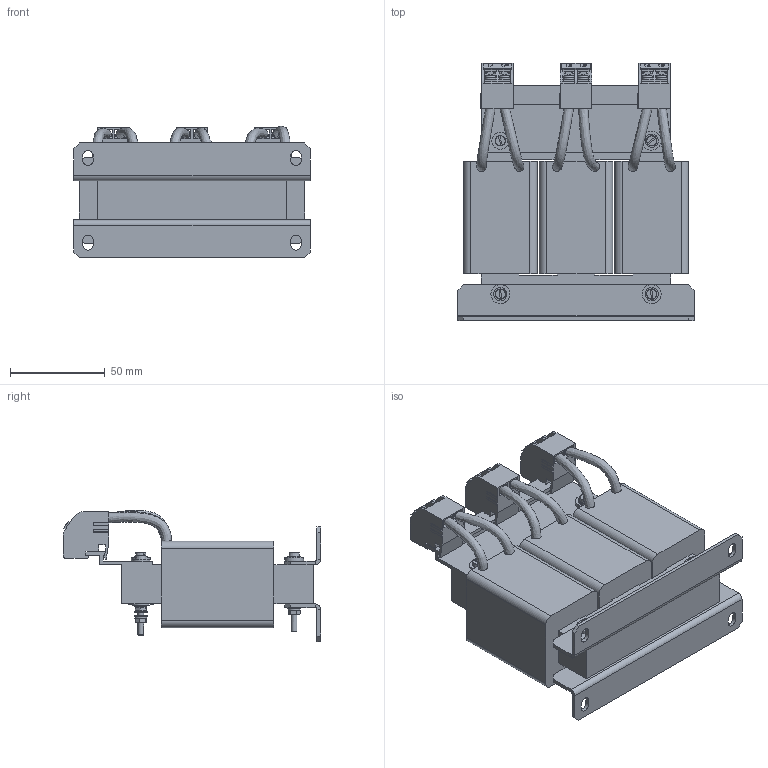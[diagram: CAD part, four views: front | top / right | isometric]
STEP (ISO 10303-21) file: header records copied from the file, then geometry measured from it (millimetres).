
FILE_DESCRIPTION(/* description */ ('raw material description'),/* implementation_level */ '2;1');
FILE_NAME(/* name */ 'P:\Construction\Filter_Marketing\RWK\RWK3044_RWK3062\RWK3044-6.5-88-E0XXX.stp',/* time_stamp */ '2018-08-27T09:44:47+02:00',/* author */ ('Erika.Jenzer'),/* organization */ ('Schaffner EMV AG'),/* preprocessor_version */ 'ST-DEVELOPER v16.5',/* originating_system */ 'Autodesk Inventor 2017',/* authorisation */ '');
FILE_SCHEMA (('AUTOMOTIVE_DESIGN { 1 0 10303 214 3 1 1 }'));
Products named in the file (1): RWK3044-6.5-88-E0XXX
Bounding box: 125 x 136.05 x 69.54 mm (x, y, z)
Volume: 448876.3 mm3; surface area: 93158.1 mm2
Topology: 1 solids, 9 shells, 1754 faces, 4882 edges, 3170 vertices
Faces by surface type: plane 1429, cylinder 188, bspline 62, cone 39, sphere 24, torus 12
Full cylindrical faces by diameter (mm): 3 x19, 3.1 x4, 3.2 x10, 3.4 x1, 4.2 x3, 4.5 x5, 5.7 x6, 6 x1, 7 x8, 9 x2, 10 x3, 13 x1
Entity records: 60075 total; most frequent: CARTESIAN_POINT 13686, ORIENTED_EDGE 9424, DIRECTION 8914, EDGE_CURVE 4712, LINE 3446, VECTOR 3446, VERTEX_POINT 3114, AXIS2_PLACEMENT_3D 2734
